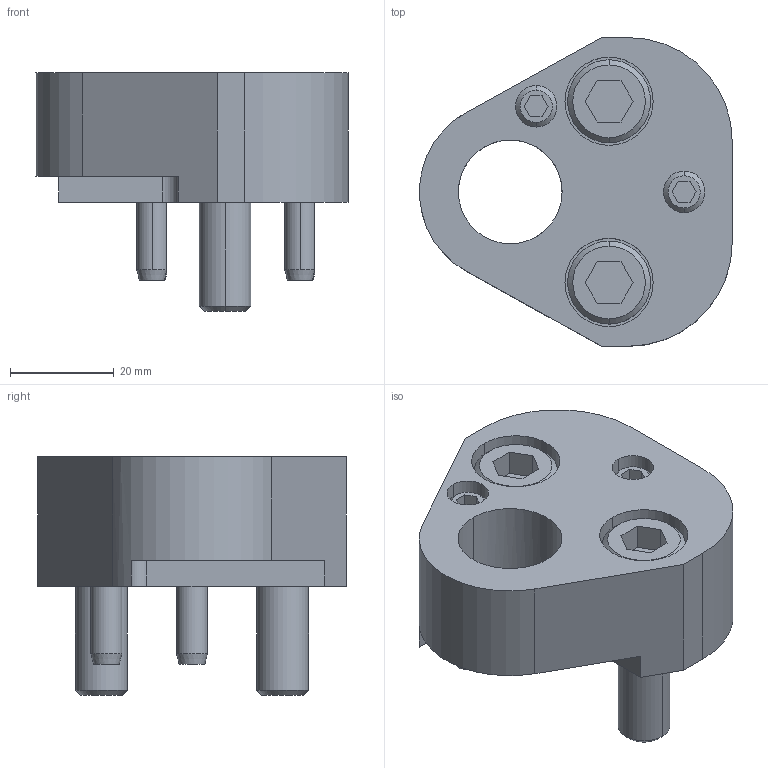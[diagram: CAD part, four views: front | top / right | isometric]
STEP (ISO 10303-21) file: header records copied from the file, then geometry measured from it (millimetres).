
FILE_DESCRIPTION(/* description */ (''),/* implementation_level */ '2;1');
FILE_NAME(/* name */ '3d_25crnfr20_03155_r00.stp',/* time_stamp */ '2011-01-10T14:17:51+09:00',/* author */ ('MISUMI'),/* organization */ (''),/* preprocessor_version */ 'ST-DEVELOPER v11',/* originating_system */ 'UGS - NX 5.0',/* authorisation */ '');
FILE_SCHEMA (('CONFIG_CONTROL_DESIGN'));
Length unit declared in the file: millimetre
Products named in the file (1): 3d_25crnfr20_03155_r00
Bounding box: 60.24 x 59.5 x 46 mm (x, y, z)
Volume: 58586.8 mm3; surface area: 19833.9 mm2
Topology: 7 solids, 7 shells, 136 faces, 304 edges, 195 vertices
Faces by surface type: plane 62, cylinder 48, cone 26
Entity records: 3925 total; most frequent: DIRECTION 695, CARTESIAN_POINT 693, ORIENTED_EDGE 608, EDGE_CURVE 304, AXIS2_PLACEMENT_3D 261, VERTEX_POINT 195, LINE 173, VECTOR 173
